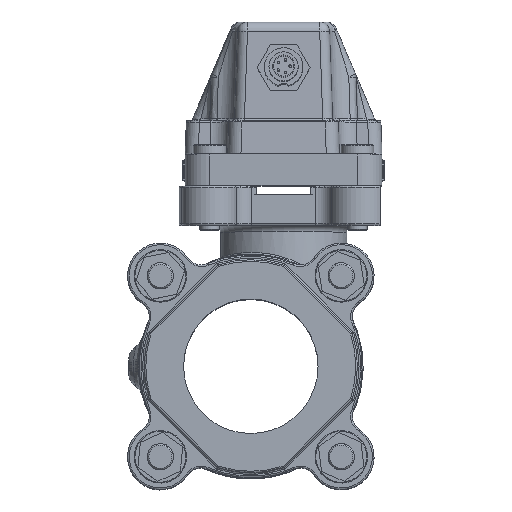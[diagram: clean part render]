
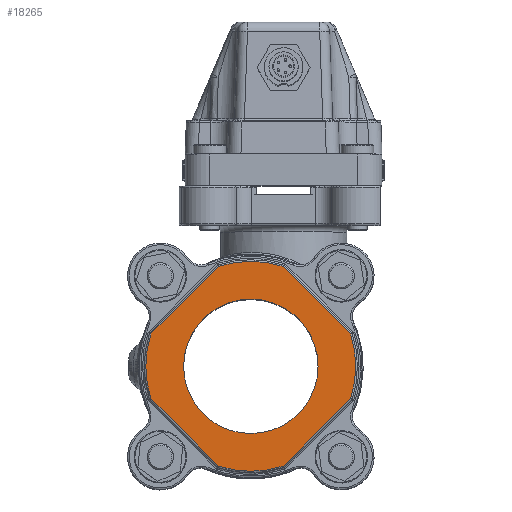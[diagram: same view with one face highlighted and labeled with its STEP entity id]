
A CAD part, top view. The second image highlights one B-rep face of the part: STEP entity #18265.
In plain terms, the highlighted planar face has unit normal (0, 0, 1).
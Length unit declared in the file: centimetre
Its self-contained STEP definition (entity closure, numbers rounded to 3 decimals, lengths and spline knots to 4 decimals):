
#2010=PLANE('',#8751);
#2265=VECTOR('',#5771,1.);
#2267=VECTOR('',#5775,1.);
#2269=VECTOR('',#5784,1.);
#2271=VECTOR('',#5798,1.);
#2820=LINE('',#24743,#2265);
#2822=LINE('',#24762,#2267);
#2824=LINE('',#24816,#2269);
#2826=LINE('',#24857,#2271);
#4015=VERTEX_POINT('',#24637);
#4048=VERTEX_POINT('',#24709);
#4049=VERTEX_POINT('',#24710);
#4052=VERTEX_POINT('',#24744);
#4054=VERTEX_POINT('',#24763);
#4055=VERTEX_POINT('',#24764);
#4058=VERTEX_POINT('',#24798);
#4060=VERTEX_POINT('',#24817);
#4062=VERTEX_POINT('',#24839);
#5695=DIRECTION('',(0.,0.,-1.));
#5696=DIRECTION('',(2.05,0.,0.));
#5765=DIRECTION('',(0.,0.,-1.));
#5766=DIRECTION('',(0.,-3.2,0.));
#5771=DIRECTION('',(-0.707,0.707,0.));
#5775=DIRECTION('',(0.707,-0.707,0.));
#5778=DIRECTION('',(0.,0.,-1.));
#5779=DIRECTION('',(-3.2,0.,0.));
#5784=DIRECTION('',(0.707,0.707,0.));
#5787=DIRECTION('',(0.,0.,-1.));
#5788=DIRECTION('',(0.,3.2,0.));
#5792=DIRECTION('',(0.,0.,-1.));
#5793=DIRECTION('',(3.2,0.,0.));
#5798=DIRECTION('',(-0.707,-0.707,0.));
#5817=DIRECTION('',(0.,0.,1.));
#8695=AXIS2_PLACEMENT_3D('',#24636,#5695,#5696);
#8730=AXIS2_PLACEMENT_3D('',#24708,#5765,#5766);
#8735=AXIS2_PLACEMENT_3D('',#24797,#5778,#5779);
#8739=AXIS2_PLACEMENT_3D('',#24835,#5787,#5788);
#8742=AXIS2_PLACEMENT_3D('',#24838,#5792,#5793);
#8751=AXIS2_PLACEMENT_3D('',#24877,#5817,$);
#10116=CIRCLE('',#8695,2.05);
#10145=CIRCLE('',#8730,3.2);
#10147=CIRCLE('',#8735,3.2);
#10149=CIRCLE('',#8739,3.2);
#10151=CIRCLE('',#8742,3.2);
#11160=EDGE_CURVE('',#4015,#4015,#10116,.T.);
#11193=EDGE_CURVE('',#4048,#4049,#10145,.T.);
#11197=EDGE_CURVE('',#4049,#4052,#2820,.T.);
#11200=EDGE_CURVE('',#4054,#4055,#2822,.T.);
#11204=EDGE_CURVE('',#4052,#4058,#10147,.T.);
#11207=EDGE_CURVE('',#4058,#4060,#2824,.T.);
#11210=EDGE_CURVE('',#4060,#4054,#10149,.T.);
#11212=EDGE_CURVE('',#4055,#4062,#10151,.T.);
#11215=EDGE_CURVE('',#4062,#4048,#2826,.T.);
#13460=ORIENTED_EDGE('',*,*,#11160,.T.);
#13461=ORIENTED_EDGE('',*,*,#11200,.F.);
#13462=ORIENTED_EDGE('',*,*,#11210,.F.);
#13463=ORIENTED_EDGE('',*,*,#11207,.F.);
#13464=ORIENTED_EDGE('',*,*,#11204,.F.);
#13465=ORIENTED_EDGE('',*,*,#11197,.F.);
#13466=ORIENTED_EDGE('',*,*,#11193,.F.);
#13467=ORIENTED_EDGE('',*,*,#11215,.F.);
#13468=ORIENTED_EDGE('',*,*,#11212,.F.);
#16299=EDGE_LOOP('',(#13460));
#16300=EDGE_LOOP('',(#13461,#13462,#13463,#13464,#13465,#13466,#13467,#13468));
#17318=FACE_BOUND('',#16299,.T.);
#17319=FACE_BOUND('',#16300,.T.);
#18265=ADVANCED_FACE('',(#17318,#17319),#2010,.T.);
#24636=CARTESIAN_POINT('',(0.,0.0544,2.7468));
#24637=CARTESIAN_POINT('',(-2.05,0.0544,2.7468));
#24708=CARTESIAN_POINT('',(0.,0.0544,2.7468));
#24709=CARTESIAN_POINT('',(0.9863,-2.9898,2.7468));
#24710=CARTESIAN_POINT('',(-0.9863,-2.9898,2.7468));
#24743=CARTESIAN_POINT('',(-2.0153,-1.9609,2.7468));
#24744=CARTESIAN_POINT('',(-3.0442,-0.9319,2.7468));
#24762=CARTESIAN_POINT('',(2.0153,2.0696,2.7468));
#24763=CARTESIAN_POINT('',(0.9863,3.0986,2.7468));
#24764=CARTESIAN_POINT('',(3.0442,1.0407,2.7468));
#24797=CARTESIAN_POINT('',(0.,0.0544,2.7468));
#24798=CARTESIAN_POINT('',(-3.0442,1.0407,2.7468));
#24816=CARTESIAN_POINT('',(-2.0153,2.0696,2.7468));
#24817=CARTESIAN_POINT('',(-0.9863,3.0986,2.7468));
#24835=CARTESIAN_POINT('',(0.,0.0544,2.7468));
#24838=CARTESIAN_POINT('',(0.,0.0544,2.7468));
#24839=CARTESIAN_POINT('',(3.0442,-0.9319,2.7468));
#24857=CARTESIAN_POINT('',(2.0153,-1.9609,2.7468));
#24877=CARTESIAN_POINT('',(0.,0.0544,2.7468));
